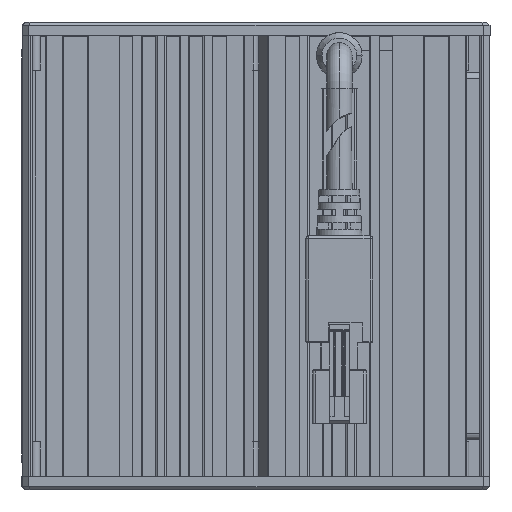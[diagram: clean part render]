
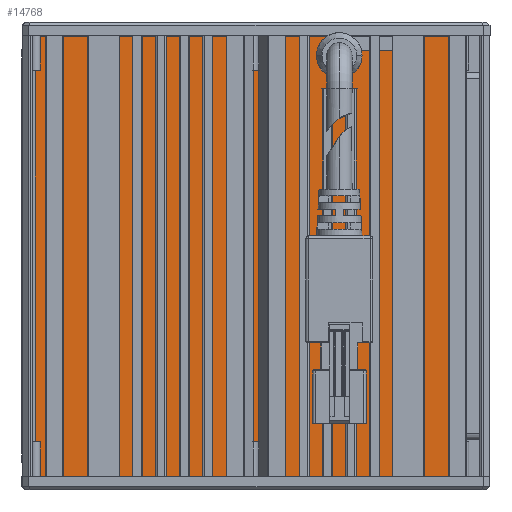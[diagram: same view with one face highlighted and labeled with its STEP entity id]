
A CAD part, front view. The second image highlights one B-rep face of the part: STEP entity #14768.
In plain terms, the highlighted planar face has unit normal (0, -1, 0).
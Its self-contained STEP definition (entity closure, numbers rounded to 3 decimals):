
#285 = VECTOR ( 'NONE', #7671, 1000. ) ;
#446 = AXIS2_PLACEMENT_3D ( 'NONE', #14939, #9956, #2052 ) ;
#452 = EDGE_CURVE ( 'NONE', #11310, #818, #15264, .T. ) ;
#818 = VERTEX_POINT ( 'NONE', #17384 ) ;
#1238 = CARTESIAN_POINT ( 'NONE',  ( 21.5, -38.4, 32.8 ) ) ;
#1290 = VECTOR ( 'NONE', #6628, 1000. ) ;
#1682 = VECTOR ( 'NONE', #3143, 1000. ) ;
#1742 = CARTESIAN_POINT ( 'NONE',  ( 13.5, -38.4, 30.8 ) ) ;
#2052 = DIRECTION ( 'NONE',  ( -1., 0., 0. ) ) ;
#2764 = ORIENTED_EDGE ( 'NONE', *, *, #452, .F. ) ;
#2785 = EDGE_CURVE ( 'NONE', #12539, #3008, #17566, .T. ) ;
#2987 = EDGE_CURVE ( 'NONE', #3008, #13227, #16916, .T. ) ;
#3008 = VERTEX_POINT ( 'NONE', #17078 ) ;
#3143 = DIRECTION ( 'NONE',  ( -1., 0., 0. ) ) ;
#3150 = EDGE_CURVE ( 'NONE', #17278, #14339, #6623, .T. ) ;
#3323 = EDGE_CURVE ( 'NONE', #6196, #16068, #15580, .T. ) ;
#3348 = CARTESIAN_POINT ( 'NONE',  ( 14., -38.4, 31.3 ) ) ;
#4338 = DIRECTION ( 'NONE',  ( 0., 0., 1. ) ) ;
#4705 = DIRECTION ( 'NONE',  ( 0., 1., 0. ) ) ;
#4995 = ORIENTED_EDGE ( 'NONE', *, *, #2785, .F. ) ;
#5229 = CARTESIAN_POINT ( 'NONE',  ( 31., -38.4, -33. ) ) ;
#5321 = CARTESIAN_POINT ( 'NONE',  ( 13.5, -38.4, 31.3 ) ) ;
#5459 = ORIENTED_EDGE ( 'NONE', *, *, #16283, .T. ) ;
#5707 = DIRECTION ( 'NONE',  ( -1., 0., 0. ) ) ;
#5828 = LINE ( 'NONE', #1742, #1682 ) ;
#6018 = LINE ( 'NONE', #12683, #17153 ) ;
#6039 = ORIENTED_EDGE ( 'NONE', *, *, #3323, .T. ) ;
#6192 = VECTOR ( 'NONE', #16721, 1000. ) ;
#6196 = VERTEX_POINT ( 'NONE', #16358 ) ;
#6275 = CARTESIAN_POINT ( 'NONE',  ( 31., -38.4, -33. ) ) ;
#6419 = VECTOR ( 'NONE', #9178, 1000. ) ;
#6623 = CIRCLE ( 'NONE', #446, 0.5 ) ;
#6628 = DIRECTION ( 'NONE',  ( -1., 0., 0. ) ) ;
#6678 = CARTESIAN_POINT ( 'NONE',  ( 21.5, -38.4, 31.3 ) ) ;
#7350 = EDGE_CURVE ( 'NONE', #11310, #17278, #15950, .T. ) ;
#7671 = DIRECTION ( 'NONE',  ( 0., 0., -1. ) ) ;
#8125 = CARTESIAN_POINT ( 'NONE',  ( 31., -38.4, 32.8 ) ) ;
#8860 = PLANE ( 'NONE',  #14259 ) ;
#9125 = DIRECTION ( 'NONE',  ( 0., 1., 0. ) ) ;
#9178 = DIRECTION ( 'NONE',  ( 0., 0., 1. ) ) ;
#9409 = EDGE_CURVE ( 'NONE', #818, #11382, #11803, .T. ) ;
#9956 = DIRECTION ( 'NONE',  ( 0., 1., 0. ) ) ;
#10350 = EDGE_LOOP ( 'NONE', ( #15441, #14130, #5459, #6039, #16101, #15020, #4995, #11831, #16802, #2764 ) ) ;
#10694 = AXIS2_PLACEMENT_3D ( 'NONE', #3348, #9125, #5707 ) ;
#11310 = VERTEX_POINT ( 'NONE', #17755 ) ;
#11382 = VERTEX_POINT ( 'NONE', #15131 ) ;
#11545 = VECTOR ( 'NONE', #13393, 1000. ) ;
#11803 = LINE ( 'NONE', #6275, #285 ) ;
#11831 = ORIENTED_EDGE ( 'NONE', *, *, #15410, .F. ) ;
#12379 = DIRECTION ( 'NONE',  ( 0., 0., -1. ) ) ;
#12539 = VERTEX_POINT ( 'NONE', #14009 ) ;
#12683 = CARTESIAN_POINT ( 'NONE',  ( 13.5, -38.4, 32.8 ) ) ;
#12844 = LINE ( 'NONE', #5229, #1290 ) ;
#13227 = VERTEX_POINT ( 'NONE', #16901 ) ;
#13393 = DIRECTION ( 'NONE',  ( 1., 0., 0. ) ) ;
#14009 = CARTESIAN_POINT ( 'NONE',  ( -33., -38.4, -33. ) ) ;
#14017 = CARTESIAN_POINT ( 'NONE',  ( -33., -38.4, -33. ) ) ;
#14130 = ORIENTED_EDGE ( 'NONE', *, *, #3150, .T. ) ;
#14259 = AXIS2_PLACEMENT_3D ( 'NONE', #17230, #4705, #14482 ) ;
#14278 = FACE_OUTER_BOUND ( 'NONE', #10350, .T. ) ;
#14339 = VERTEX_POINT ( 'NONE', #16218 ) ;
#14482 = DIRECTION ( 'NONE',  ( -1., 0., 0. ) ) ;
#14768 = ADVANCED_FACE ( 'NONE', ( #14278 ), #8860, .F. ) ;
#14939 = CARTESIAN_POINT ( 'NONE',  ( 21., -38.4, 31.3 ) ) ;
#15020 = ORIENTED_EDGE ( 'NONE', *, *, #2987, .F. ) ;
#15068 = CARTESIAN_POINT ( 'NONE',  ( 31., -38.4, 32.8 ) ) ;
#15078 = VECTOR ( 'NONE', #12379, 1000. ) ;
#15131 = CARTESIAN_POINT ( 'NONE',  ( 31., -38.4, -33. ) ) ;
#15264 = LINE ( 'NONE', #8125, #11545 ) ;
#15410 = EDGE_CURVE ( 'NONE', #11382, #12539, #12844, .T. ) ;
#15441 = ORIENTED_EDGE ( 'NONE', *, *, #7350, .T. ) ;
#15580 = CIRCLE ( 'NONE', #10694, 0.5 ) ;
#15950 = LINE ( 'NONE', #1238, #15078 ) ;
#16068 = VERTEX_POINT ( 'NONE', #5321 ) ;
#16101 = ORIENTED_EDGE ( 'NONE', *, *, #16884, .T. ) ;
#16218 = CARTESIAN_POINT ( 'NONE',  ( 21., -38.4, 30.8 ) ) ;
#16283 = EDGE_CURVE ( 'NONE', #14339, #6196, #5828, .T. ) ;
#16358 = CARTESIAN_POINT ( 'NONE',  ( 14., -38.4, 30.8 ) ) ;
#16721 = DIRECTION ( 'NONE',  ( 1., 0., 0. ) ) ;
#16802 = ORIENTED_EDGE ( 'NONE', *, *, #9409, .F. ) ;
#16884 = EDGE_CURVE ( 'NONE', #16068, #13227, #6018, .T. ) ;
#16901 = CARTESIAN_POINT ( 'NONE',  ( 13.5, -38.4, 32.8 ) ) ;
#16916 = LINE ( 'NONE', #15068, #6192 ) ;
#17078 = CARTESIAN_POINT ( 'NONE',  ( -33., -38.4, 32.8 ) ) ;
#17153 = VECTOR ( 'NONE', #4338, 1000. ) ;
#17230 = CARTESIAN_POINT ( 'NONE',  ( -1., -38.4, -0.1 ) ) ;
#17278 = VERTEX_POINT ( 'NONE', #6678 ) ;
#17384 = CARTESIAN_POINT ( 'NONE',  ( 31., -38.4, 32.8 ) ) ;
#17566 = LINE ( 'NONE', #14017, #6419 ) ;
#17755 = CARTESIAN_POINT ( 'NONE',  ( 21.5, -38.4, 32.8 ) ) ;
